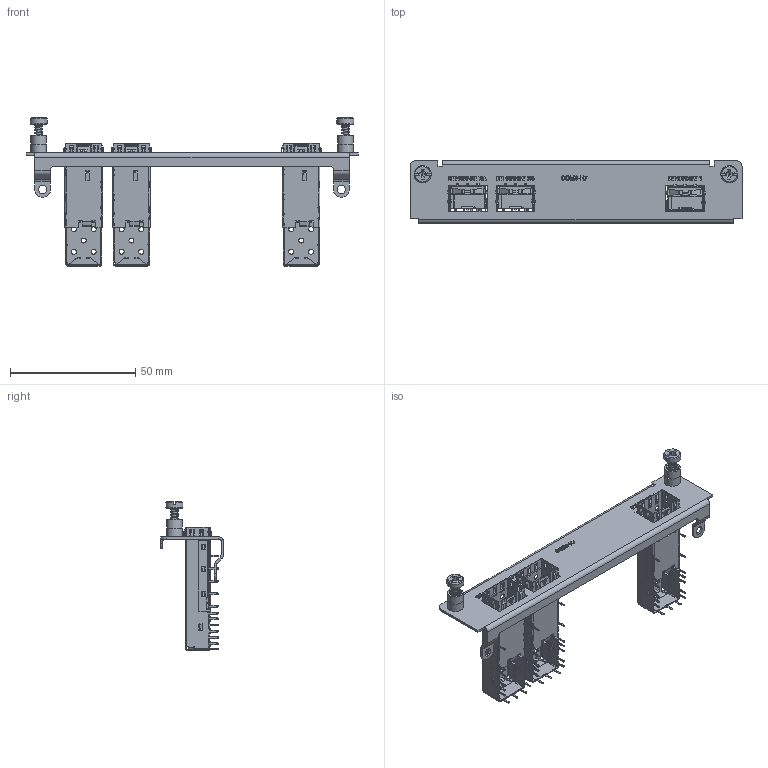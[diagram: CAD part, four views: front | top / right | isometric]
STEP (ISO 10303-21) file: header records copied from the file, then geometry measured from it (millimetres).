
FILE_DESCRIPTION(/* description */ (''),/* implementation_level */ '2;1');
FILE_NAME(/* name */ 'C:\Workspace\Workspace\103 - Highland\Engineering\95792\H7-FLEX.stp',/* time_stamp */ '2023-04-14T13:37:51-05:00',/* author */ ('jasonz'),/* organization */ (''),/* preprocessor_version */ 'ST-DEVELOPER v18.1',/* originating_system */ 'Autodesk Inventor 2022',/* authorisation */ '');
FILE_SCHEMA (('AUTOMOTIVE_DESIGN { 1 0 10303 214 3 1 1 }'));
Products named in the file (7): H7-FLEX; 9579230119; 9579200030; 9579200030_1; 44090; 9579200097; Amphenol U77A1113X001
Assembly tree (9 placements, depth 4):
  H7-FLEX
    9579230119
      9579200030
        9579200030_1
      44090  x2
    9579200097
    Amphenol U77A1113X001  x3
Bounding box: 132.59 x 25.02 x 59.11 mm (x, y, z)
Volume: 3998.9 mm3; surface area: 23470.7 mm2
Topology: 43 solids, 3652 shells, 4347 faces, 20833 edges, 20181 vertices
Faces by surface type: plane 2481, cylinder 1468, bspline 360, cone 36, torus 2
Full cylindrical faces by diameter (mm): 1.905 x2, 2.413 x2, 2.824 x2, 2.921 x2, 3.251 x2, 3.632 x2, 3.658 x2, 3.912 x2, 4.648 x2, 4.826 x2, 6.223 x4, 6.833 x2
Entity records: 95108 total; most frequent: CARTESIAN_POINT 28281, DIRECTION 12856, ORIENTED_EDGE 9703, EDGE_CURVE 8012, VERTEX_POINT 7435, LINE 5456, VECTOR 5456, AXIS2_PLACEMENT_3D 3700
